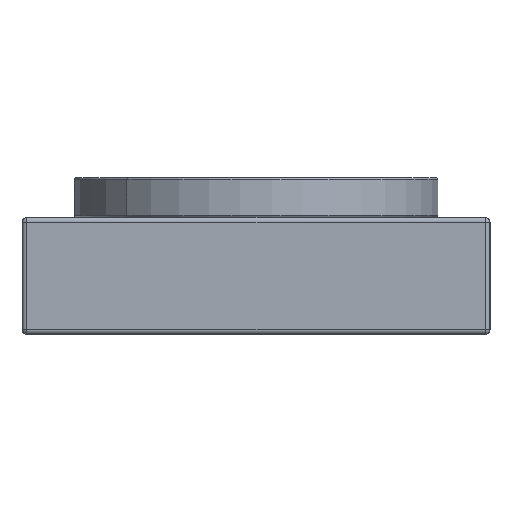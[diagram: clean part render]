
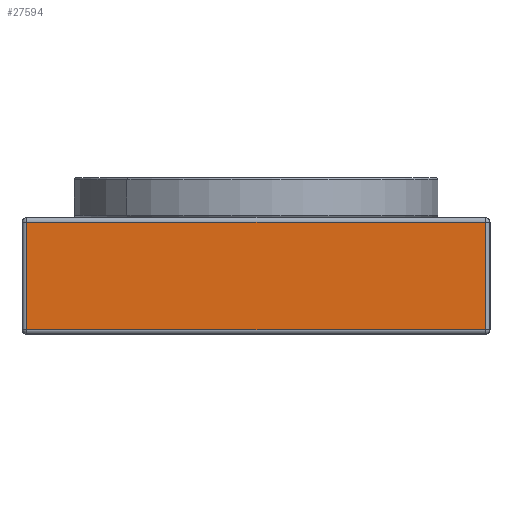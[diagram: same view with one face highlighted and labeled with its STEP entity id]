
A CAD part, left-side view. The second image highlights one B-rep face of the part: STEP entity #27594.
In plain terms, the highlighted planar face has unit normal (-1, 0, 0).
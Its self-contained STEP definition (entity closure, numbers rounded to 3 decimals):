
#603 = CARTESIAN_POINT ( 'NONE',  ( -192.7, 59.729, 188.5 ) ) ;
#1365 = AXIS2_PLACEMENT_3D ( 'NONE', #8526, #33908, #18809 ) ;
#1453 = VERTEX_POINT ( 'NONE', #34637 ) ;
#1698 = EDGE_CURVE ( 'NONE', #44539, #1453, #41638, .T. ) ;
#2255 = CARTESIAN_POINT ( 'NONE',  ( -192.7, 58.729, 211.5 ) ) ;
#7034 = VECTOR ( 'NONE', #32259, 1000. ) ;
#7164 = VERTEX_POINT ( 'NONE', #44383 ) ;
#7893 = CARTESIAN_POINT ( 'NONE',  ( -192.7, 58.729, 211.5 ) ) ;
#8526 = CARTESIAN_POINT ( 'NONE',  ( -192.7, 59.729, 222.5 ) ) ;
#9792 = EDGE_CURVE ( 'NONE', #1453, #38098, #42819, .T. ) ;
#10408 = ORIENTED_EDGE ( 'NONE', *, *, #1698, .T. ) ;
#11018 = DIRECTION ( 'NONE',  ( 0., 1., 0. ) ) ;
#11985 = EDGE_CURVE ( 'NONE', #7164, #44539, #21919, .T. ) ;
#12336 = LINE ( 'NONE', #23547, #21602 ) ;
#15150 = PLANE ( 'NONE',  #1365 ) ;
#17233 = CARTESIAN_POINT ( 'NONE',  ( -192.7, -39.271, 188.5 ) ) ;
#17813 = CARTESIAN_POINT ( 'NONE',  ( -192.7, 58.729, 222.5 ) ) ;
#18809 = DIRECTION ( 'NONE',  ( 0., 0., -1. ) ) ;
#19795 = FACE_OUTER_BOUND ( 'NONE', #29493, .T. ) ;
#21602 = VECTOR ( 'NONE', #39304, 1000. ) ;
#21919 = LINE ( 'NONE', #2255, #40189 ) ;
#23547 = CARTESIAN_POINT ( 'NONE',  ( -192.7, -39.271, 222.5 ) ) ;
#26381 = ORIENTED_EDGE ( 'NONE', *, *, #36461, .T. ) ;
#27594 = ADVANCED_FACE ( 'NONE', ( #19795 ), #15150, .F. ) ;
#29493 = EDGE_LOOP ( 'NONE', ( #10408, #31655, #26381, #31053 ) ) ;
#31053 = ORIENTED_EDGE ( 'NONE', *, *, #11985, .T. ) ;
#31405 = VECTOR ( 'NONE', #38414, 1000. ) ;
#31655 = ORIENTED_EDGE ( 'NONE', *, *, #9792, .T. ) ;
#32259 = DIRECTION ( 'NONE',  ( 0., 0., -1. ) ) ;
#33908 = DIRECTION ( 'NONE',  ( 1., 0., 0. ) ) ;
#34637 = CARTESIAN_POINT ( 'NONE',  ( -192.7, 58.729, 188.5 ) ) ;
#36461 = EDGE_CURVE ( 'NONE', #38098, #7164, #12336, .T. ) ;
#38098 = VERTEX_POINT ( 'NONE', #17233 ) ;
#38414 = DIRECTION ( 'NONE',  ( 0., -1., 0. ) ) ;
#39304 = DIRECTION ( 'NONE',  ( 0., 0., 1. ) ) ;
#40189 = VECTOR ( 'NONE', #11018, 1000. ) ;
#41638 = LINE ( 'NONE', #17813, #7034 ) ;
#42819 = LINE ( 'NONE', #603, #31405 ) ;
#44383 = CARTESIAN_POINT ( 'NONE',  ( -192.7, -39.271, 211.5 ) ) ;
#44539 = VERTEX_POINT ( 'NONE', #7893 ) ;
